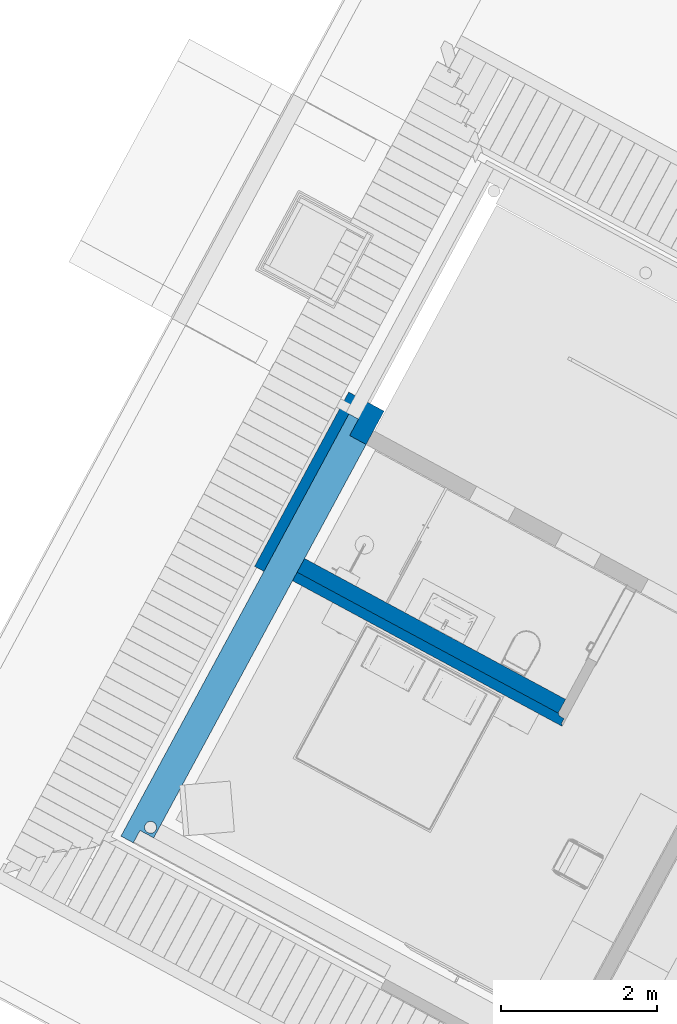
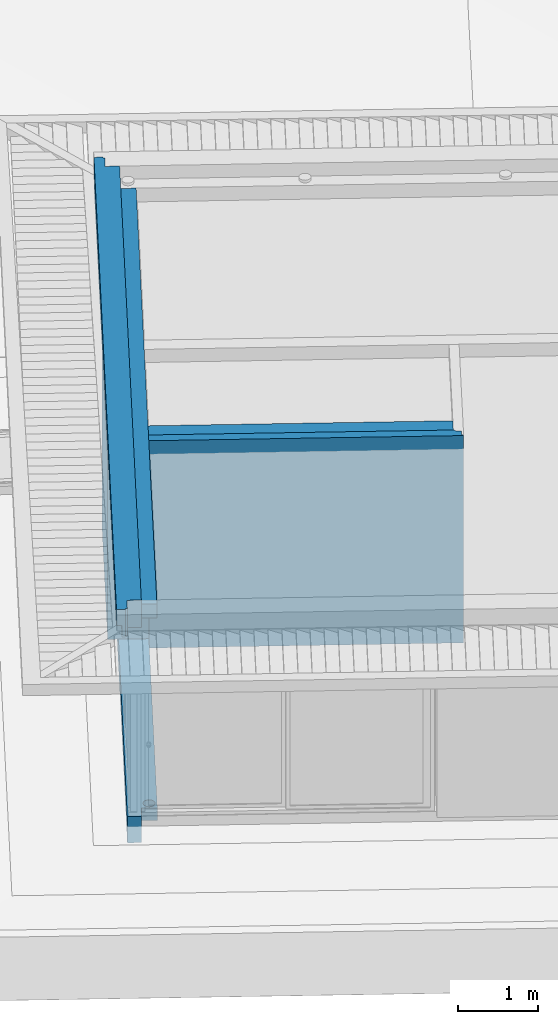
# One storey, part 7 of 48: 4 walls, 2 openings.
"""IFC2X3 building model written with IfcOpenShell, lengths in metres."""

import ifcopenshell
import ifcopenshell.guid

model = None  # the IFC model being written
_history = None  # IfcOwnerHistory: only IFC2X3 demands one
_inside = {}  # id of a spatial element -> (the spatial element, [elements in it])
_under = {}  # id of a project, library or spatial element -> (it, [spatial elements below it])
_declared = {}  # id of a project -> (the project, [libraries it declares])
_typed = {}  # id of a type object -> (the type object, [elements of that type])
_made_of = {}  # id of a material, layer set ... -> (it, [elements and type objects made of it])


def new_model(schema):
    """Start an empty IFC model of exactly this schema.

    Asked for "IFC4X3", IfcOpenShell would pick the latest addendum, in which some entities
    have other attributes; the version numbers below select the first issue.
    IFC2X3 requires an IfcOwnerHistory on every rooted entity: one is made here for all.
    """
    global model, _history
    if schema == "IFC4X3":
        model = ifcopenshell.file(schema_version=(4, 3, 0, 0))
    else:
        model = ifcopenshell.file(schema=schema)
    _inside.clear()
    _under.clear()
    _declared.clear()
    _typed.clear()
    _made_of.clear()
    _history = None
    if model.schema == "IFC2X3":
        org = make("IfcOrganization", Name="unknown")
        user = make(
            "IfcPersonAndOrganization",
            ThePerson=make("IfcPerson", FamilyName="unknown"),
            TheOrganization=org,
        )
        app = make(
            "IfcApplication",
            ApplicationDeveloper=org,
            Version="unknown",
            ApplicationFullName="unknown",
            ApplicationIdentifier="unknown",
        )
        _history = make(
            "IfcOwnerHistory",
            OwningUser=user,
            OwningApplication=app,
            ChangeAction="ADDED",
            CreationDate=0,
        )
    return model


def make(cls, **values):
    """One entity of the class cls with the attributes given. An attribute that is None is left unset."""
    return model.create_entity(
        cls, **{name: value for name, value in values.items() if value is not None}
    )


def entity(cls, *values):
    """Any entity or typed value of the class cls, its attributes in the order of the schema. None: left unset."""
    e = model.create_entity(cls)
    for i, value in enumerate(values):
        if value is not None:
            e[i] = value
    return e


def rooted(cls, **values):
    """An entity with a GlobalId (a new one), such as an element, a storey or a relation."""
    return make(cls, GlobalId=ifcopenshell.guid.new(), OwnerHistory=_history, **values)


def si_unit(unit_type, name, prefix=None):
    """IfcSIUnit, for example si_unit("LENGTHUNIT", "METRE", prefix="MILLI")."""
    return make("IfcSIUnit", UnitType=unit_type, Prefix=prefix, Name=name)


def converted_unit(unit_type, name, factor, base, dimensions=None, offset=None):
    """IfcConversionBasedUnit, such as the inch: factor (a typed value) times the base unit."""
    return make(
        "IfcConversionBasedUnit"
        if offset is None
        else "IfcConversionBasedUnitWithOffset",
        ConversionOffset=offset,
        Dimensions=None
        if dimensions is None
        else entity("IfcDimensionalExponents", *dimensions),
        UnitType=unit_type,
        Name=name,
        ConversionFactor=make(
            "IfcMeasureWithUnit", ValueComponent=factor, UnitComponent=base
        ),
    )


def derived_unit(unit_type, elements):
    """IfcDerivedUnit: a product of units, each with its exponent."""
    return make(
        "IfcDerivedUnit",
        Elements=[
            make("IfcDerivedUnitElement", Unit=unit, Exponent=power)
            for unit, power in elements
        ],
        UnitType=unit_type,
    )


def money_unit(currency):
    """IfcMonetaryUnit."""
    return make("IfcMonetaryUnit", Currency=currency)


def assignment(units):
    """IfcUnitAssignment: the units of a project."""
    return None if units is None else make("IfcUnitAssignment", Units=units)


def point(xyz):
    """IfcCartesianPoint."""
    return None if xyz is None else make("IfcCartesianPoint", Coordinates=xyz)


def direction(xyz):
    """IfcDirection."""
    return None if xyz is None else make("IfcDirection", DirectionRatios=xyz)


def frame(location, z_axis=None, x_axis=None):
    """IfcAxis2Placement3D, a coordinate frame: its origin and axes. An axis left out is left unset."""
    return make(
        "IfcAxis2Placement3D",
        Location=point(location),
        Axis=direction(z_axis),
        RefDirection=direction(x_axis),
    )


def origin_with_axes():
    """The frame at (0, 0, 0) with the z axis (0, 0, 1) and the x axis (1, 0, 0) written out."""
    return frame((0.0, 0.0, 0.0), z_axis=(0.0, 0.0, 1.0), x_axis=(1.0, 0.0, 0.0))


def place(relative_to, where):
    """IfcLocalPlacement: puts the frame where relative to a parent placement (None: the world)."""
    return make(
        "IfcLocalPlacement", PlacementRelTo=relative_to, RelativePlacement=where
    )


def context(
    kind, dimensions, precision=None, world=None, true_north=None, identifier=None
):
    """IfcGeometricRepresentationContext, for example the 3D "Model" context."""
    return make(
        "IfcGeometricRepresentationContext",
        ContextIdentifier=identifier,
        ContextType=kind,
        CoordinateSpaceDimension=dimensions,
        Precision=precision,
        WorldCoordinateSystem=world,
        TrueNorth=true_north,
    )


def subcontext(parent, identifier, kind, view, scale=None):
    """IfcGeometricRepresentationSubContext, for example "Body" below "Model"."""
    return make(
        "IfcGeometricRepresentationSubContext",
        ContextIdentifier=identifier,
        ContextType=kind,
        ParentContext=parent,
        TargetScale=scale,
        TargetView=view,
    )


def project(units=None, contexts=None):
    """IfcProject with its units and contexts."""
    return rooted(
        "IfcProject",
        Name="project",
        RepresentationContexts=contexts,
        UnitsInContext=assignment(units),
    )


def spatial(cls, under=None, at=None, **own):
    """A site, building, storey or space (cls), placed at a placement, below another one or the project."""
    s = rooted(cls, ObjectPlacement=at, **own)
    if under is not None:
        _under.setdefault(under.id(), (under, []))[1].append(s)
    return s


def faces_of(points, faces, orient=None, outer=None):
    """IfcFace entities. A face is a list of loops; a loop is a list of indices into points, from 0.

    orient and outer hold one flag for each loop. By default every Orientation is true, the
    first loop of a face is its IfcFaceOuterBound and the others are IfcFaceBound.
    """
    made = []
    for i, loops in enumerate(faces):
        bounds = []
        for j, loop in enumerate(loops):
            is_outer = j == 0 if outer is None else outer[i][j]
            bounds.append(
                make(
                    "IfcFaceOuterBound" if is_outer else "IfcFaceBound",
                    Bound=make("IfcPolyLoop", Polygon=[points[k] for k in loop]),
                    Orientation=True if orient is None else orient[i][j],
                )
            )
        made.append(make("IfcFace", Bounds=bounds))
    return made


def faceted_brep(points, faces, orient=None, outer=None, voids=None):
    """IfcFacetedBrep: a solid bounded by flat faces; with voids (closed shells), ...WithVoids."""
    shared = [point(p) for p in points]
    hull = make("IfcClosedShell", CfsFaces=faces_of(shared, faces, orient, outer))
    if voids is None:
        return make("IfcFacetedBrep", Outer=hull)
    return make(
        "IfcFacetedBrepWithVoids",
        Outer=hull,
        Voids=[
            make(cls, CfsFaces=faces_of(shared, fs, o, b)) for cls, fs, o, b in voids
        ],
    )


def shape(context_of_items, identifier, shape_type, items):
    """IfcShapeRepresentation: the items that make up one representation, for example the "Body"."""
    return make(
        "IfcShapeRepresentation",
        ContextOfItems=context_of_items,
        RepresentationIdentifier=identifier,
        RepresentationType=shape_type,
        Items=items,
    )


def material(Name=None, Category=None):
    """IfcMaterial."""
    return make("IfcMaterial", Name=Name, Category=Category)


def material_list(materials):
    """IfcMaterialList."""
    return make("IfcMaterialList", Materials=materials)


def made_of(thing, what):
    """Note that an element or type object is made of a material, layer set ...; save() writes the relation."""
    if what is not None:
        _made_of.setdefault(what.id(), (what, []))[1].append(thing)
    return thing


def type_object(cls, material=None, **own):
    """A type object (cls), such as IfcWallType, which elements share."""
    return made_of(rooted(cls, **own), material)


def element(
    cls,
    number,
    at=None,
    inside=None,
    cuts=None,
    type_object=None,
    material=None,
    context=None,
    identifier="Body",
    shape_type=None,
    held_by="IfcProductDefinitionShape",
    body=None,
    shapes=None,
    **own,
):
    """One element of the class cls, such as IfcWall. Its Tag is "e" and its number.

    at: its placement. inside: the storey or other place that contains it. cuts: it is an
    opening in that element (IfcRelVoidsElement). A single representation is given by context,
    identifier, shape_type and body (its items); several are given by shapes. held_by: the class
    of the entity that holds the representations. save() writes the other relations.
    """
    e = rooted(cls, Tag="e%d" % number, ObjectPlacement=at, **own)
    if body is not None:
        shapes = [shape(context, identifier, shape_type, body)]
    if shapes is not None:
        e.Representation = make(held_by, Representations=shapes)
    if inside is not None:
        _inside.setdefault(inside.id(), (inside, []))[1].append(e)
    if cuts is not None:
        rooted(
            "IfcRelVoidsElement", RelatingBuildingElement=cuts, RelatedOpeningElement=e
        )
    if type_object is not None:
        _typed.setdefault(type_object.id(), (type_object, []))[1].append(e)
    return made_of(e, material)


def aggregate(whole, parts):
    """IfcRelAggregates: a whole, such as a stair, and the parts it consists of."""
    return rooted("IfcRelAggregates", RelatingObject=whole, RelatedObjects=parts)


def save(model, path):
    """Write the relations noted so far, then the file.

    IfcRelAggregates (storeys below a building ...), IfcRelContainedInSpatialStructure (elements
    in a storey), IfcRelDefinesByType, IfcRelAssociatesMaterial and IfcRelDeclares: one each for
    every whole, place, type object, material and project.
    """
    for whole, parts in _under.values():
        aggregate(whole, parts)
    for where, things in _inside.values():
        rooted(
            "IfcRelContainedInSpatialStructure",
            RelatedElements=things,
            RelatingStructure=where,
        )
    for kind, things in _typed.values():
        rooted("IfcRelDefinesByType", RelatedObjects=things, RelatingType=kind)
    for what, things in _made_of.values():
        rooted("IfcRelAssociatesMaterial", RelatedObjects=things, RelatingMaterial=what)
    for by, libraries in _declared.values():
        rooted("IfcRelDeclares", RelatingContext=by, RelatedDefinitions=libraries)
    model.write(path)


model = new_model("IFC2X3")

# Units and contexts
model_context = context("Model", 3, precision=1e-05, world=origin_with_axes(), true_north=direction((0.0, 1.0)))
body_context = subcontext(model_context, "Body", "Model", "MODEL_VIEW")
ifc_project = project(units=[si_unit("LENGTHUNIT", "METRE"), si_unit("AREAUNIT", "SQUARE_METRE"), si_unit("VOLUMEUNIT", "CUBIC_METRE"), converted_unit("PLANEANGLEUNIT", "DEGREE", entity("IfcPlaneAngleMeasure", 0.0174532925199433), si_unit("PLANEANGLEUNIT", "RADIAN"), dimensions=[0, 0, 0, 0, 0, 0, 0]), money_unit("EUR"), converted_unit("TIMEUNIT", "Year", entity("IfcTimeMeasure", 31556926.0), si_unit("TIMEUNIT", "SECOND"), dimensions=[0, 0, 1, 0, 0, 0, 0]), si_unit("MASSUNIT", "GRAM", prefix="KILO"), si_unit("THERMODYNAMICTEMPERATUREUNIT", "DEGREE_CELSIUS"), si_unit("LUMINOUSINTENSITYUNIT", "LUMEN"), si_unit("ENERGYUNIT", "JOULE", prefix="MEGA"), derived_unit("THERMALCONDUCTANCEUNIT", [(si_unit("POWERUNIT", "WATT"), 1), (si_unit("LENGTHUNIT", "METRE"), -1), (si_unit("THERMODYNAMICTEMPERATUREUNIT", "KELVIN"), -1)]), derived_unit("SPECIFICHEATCAPACITYUNIT", [(si_unit("ENERGYUNIT", "JOULE"), 1), (si_unit("MASSUNIT", "GRAM", prefix="KILO"), -1), (si_unit("THERMODYNAMICTEMPERATUREUNIT", "KELVIN"), -1)]), derived_unit("MASSDENSITYUNIT", [(si_unit("MASSUNIT", "GRAM", prefix="KILO"), 1), (si_unit("VOLUMEUNIT", "CUBIC_METRE"), -1)])], contexts=[model_context])

# Site, building, storey
site_placement = place(None, frame((-3.949935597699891, 1.740105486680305, 0.0), z_axis=(0.0, 0.0, 1.0), x_axis=(0.8799804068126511, -0.475009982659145, 0.0)))
site = spatial("IfcSite", under=ifc_project, at=site_placement, Name="Gelände", CompositionType="ELEMENT")
building_placement = place(site_placement, origin_with_axes())
building = spatial("IfcBuilding", under=site, at=building_placement, Name="Gebäude", CompositionType="ELEMENT")
storey_placement = place(building_placement, frame((0.0, 0.0, 4.55), z_axis=(0.0, 0.0, 1.0), x_axis=(1.0, 0.0, 0.0)))
storey = spatial("IfcBuildingStorey", under=building, at=storey_placement, Name="Staffelgeschoss", CompositionType="ELEMENT", Elevation=4.55)

# Wall
ifc_material_1 = material(Name="_SIWH - Gipskarton")
ifc_material_2 = material(Name="_SIWH - Dämmung, weich Mineralwolle")
ifc_material_list_1 = material_list([ifc_material_1, ifc_material_1, ifc_material_2, ifc_material_1, ifc_material_1])
wall_type_1 = type_object("IfcWallType", Name="_SIWH - WI | GK 2-lagig | 12,5cm 125", PredefinedType="NOTDEFINED")
wall_1_placement = place(storey_placement, frame((5.597480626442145, 5.168060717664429, -0.1899999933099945), z_axis=(0.0, 0.0, 1.0), x_axis=(1.0, 0.0, 0.0)))
element("IfcWall", 1, at=wall_1_placement, inside=storey, type_object=wall_type_1, material=ifc_material_list_1, Name="L-Wand040", context=body_context, shape_type="Brep", body=[
    faceted_brep([(3.812914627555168, 0.125, 3.153999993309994), (0.0, 0.125, 3.153999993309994), (0.0, 0.1124999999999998, 3.153999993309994), (3.812914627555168, 0.1125000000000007, 3.153999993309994), (3.812914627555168, 0.125, 0.0), (0.0, 0.125, 0.0), (0.0, 0.1124999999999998, 0.0), (3.812914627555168, 0.1124999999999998, 0.0)], [[[0, 1, 2, 3]], [[4, 5, 1, 0]], [[2, 1, 5, 6]], [[3, 2, 6, 7]], [[3, 7, 4, 0]], [[7, 6, 5, 4]]]),
    faceted_brep([(3.825414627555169, 0.1125000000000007, 3.153999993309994), (0.0, 0.1124999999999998, 3.153999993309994), (0.0, 0.1000000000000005, 3.153999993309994), (3.825414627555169, 0.1000000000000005, 3.153999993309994), (3.825414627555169, 0.1124999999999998, 0.0), (0.0, 0.1124999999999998, 0.0), (0.0, 0.09999999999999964, 0.0), (3.825414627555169, 0.1000000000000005, 0.0)], [[[0, 1, 2, 3]], [[4, 5, 1, 0]], [[2, 1, 5, 6]], [[3, 2, 6, 7]], [[3, 7, 4, 0]], [[7, 6, 5, 4]]]),
    faceted_brep([(3.900414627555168, 0.1000000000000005, 3.153999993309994), (0.0, 0.1000000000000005, 3.153999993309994), (0.0, 0.02500000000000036, 3.153999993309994), (3.900414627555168, 0.02500000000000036, 3.153999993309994), (3.900414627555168, 0.1000000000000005, 0.0), (0.0, 0.09999999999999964, 0.0), (0.0, 0.02500000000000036, 0.0), (3.900414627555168, 0.02500000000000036, 0.0)], [[[0, 1, 2, 3]], [[4, 5, 1, 0]], [[2, 1, 5, 6]], [[3, 2, 6, 7]], [[3, 7, 4, 0]], [[7, 6, 5, 4]]]),
    faceted_brep([(3.912914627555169, 0.02500000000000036, 3.153999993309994), (0.0, 0.02500000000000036, 3.153999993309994), (0.0, 0.01250000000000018, 3.153999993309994), (3.912914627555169, 0.01250000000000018, 3.153999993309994), (3.912914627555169, 0.02500000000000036, 0.0), (0.0, 0.02500000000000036, 0.0), (0.0, 0.01250000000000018, 0.0), (3.912914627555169, 0.01250000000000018, 0.0)], [[[0, 1, 2, 3]], [[4, 5, 1, 0]], [[2, 1, 5, 6]], [[3, 2, 6, 7]], [[3, 7, 4, 0]], [[7, 6, 5, 4]]]),
    faceted_brep([(3.925414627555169, 0.01250000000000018, 3.153999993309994), (0.0, 0.01250000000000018, 3.153999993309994), (0.0, 0.0, 3.153999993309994), (3.925414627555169, 0.0, 3.153999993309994), (3.925414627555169, 0.01250000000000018, 0.0), (0.0, 0.01250000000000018, 0.0), (0.0, 0.0, 0.0), (3.925414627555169, 0.0, 0.0)], [[[0, 1, 2, 3]], [[4, 5, 1, 0]], [[2, 1, 5, 6]], [[3, 2, 6, 7]], [[3, 7, 4, 0]], [[7, 6, 5, 4]]]),
])

# Wall, openings
ifc_material_3 = material(Name="_SIWH - Beton, Stahlbeton")
ifc_material_4 = material(Name="_SIWH - Luftschicht vertikal")
ifc_material_5 = material(Name="_SIWH - MW Vormauerziegel")
ifc_material_list_2 = material_list([ifc_material_3, ifc_material_2, ifc_material_4, ifc_material_5])
wall_type_2 = type_object("IfcWallType", Name="_SIWH - WA | Stb. 20+WD 18+LS 2+Verblender 11,5 | 51,5cm 515", PredefinedType="NOTDEFINED")
wall_2_placement = place(storey_placement, frame((5.397480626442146, 10.85780061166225, 0.0), z_axis=(0.0, 0.0, 1.0), x_axis=(0.0, -1.0, 0.0)))
wall_2 = element("IfcWall", 2, at=wall_2_placement, inside=storey, type_object=wall_type_2, material=ifc_material_list_2, Name="A-Wand045", context=body_context, shape_type="Brep", body=[
    faceted_brep([(3.21969709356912, 0.2000000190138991, 0.0), (3.21969709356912, 0.2000000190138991, 2.699999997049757), (0.2000000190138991, 0.2000000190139, 2.699999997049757), (0.1999999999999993, 0.1999999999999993, 2.964), (9.2328131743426, 0.2000000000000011, 2.964), (9.2328131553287, 0.2000000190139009, 2.749999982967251), (5.757806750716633, 0.2000000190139, 2.749999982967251), (5.757806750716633, 0.2000000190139, 0.0), (3.21969709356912, 0.0, 0.0), (3.21969709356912, 0.0, 2.699999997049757), (0.1999999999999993, 0.0, 2.699999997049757), (0.1999999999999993, 0.0, 2.964), (9.2328131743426, 0.0, 2.964), (9.2328131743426, 0.1249999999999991, 2.749999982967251), (9.2328131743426, 0.0, 2.749999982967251), (5.757806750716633, 0.1249999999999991, 2.749999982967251), (5.757806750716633, 0.1249999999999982, 0.0), (5.757806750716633, 7.510192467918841e-09, 0.0), (5.757806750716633, 0.0, 2.749999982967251)], [[[0, 1, 2, 3, 4, 5, 6, 7]], [[1, 0, 8, 9]], [[10, 2, 1, 9]], [[2, 10, 11, 3]], [[11, 12, 4, 3]], [[13, 5, 4, 12, 14]], [[6, 5, 13, 15]], [[7, 6, 15, 16]], [[8, 0, 7, 16, 17]], [[9, 8, 17, 18, 14, 12, 11, 10]], [[13, 14, 18, 15]], [[17, 16, 15, 18]]]),
    faceted_brep([(3.21969709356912, 0.0, 0.0), (3.21969709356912, 0.0, 2.699999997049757), (0.0, 0.0, 2.699999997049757), (0.0, 0.0, 3.163999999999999), (9.4328131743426, 0.0, 3.163999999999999), (9.432812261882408, -9.124468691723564e-07, 2.749999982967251), (5.757806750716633, 0.0, 2.749999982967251), (5.757806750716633, 7.510192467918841e-09, 0.0), (3.21969709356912, -0.1800000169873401, 0.0), (3.21969709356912, -0.1800000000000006, 2.699999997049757), (0.0, -0.1799999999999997, 2.699999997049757), (0.0, -0.1799999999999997, 3.163999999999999), (9.4328131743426, -0.1799999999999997, 3.163999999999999), (9.4328131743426, -0.1799999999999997, 2.749999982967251), (5.757806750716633, -0.1799999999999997, 2.749999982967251), (5.757806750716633, -0.1800000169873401, 0.0)], [[[0, 1, 2, 3, 4, 5, 6, 7]], [[0, 8, 9, 1]], [[10, 2, 1, 9]], [[2, 10, 11, 3]], [[11, 12, 4, 3]], [[13, 5, 4, 12]], [[6, 5, 13, 14]], [[7, 6, 14, 15]], [[8, 0, 7, 15]], [[9, 8, 15, 14, 13, 12, 11, 10]]]),
    faceted_brep([(3.21969709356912, -0.1800000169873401, 0.0), (3.21969709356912, -0.1800000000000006, 2.699999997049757), (-0.1799999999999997, -0.1799999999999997, 2.699999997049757), (-0.1799999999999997, -0.1799999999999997, 3.163999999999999), (9.6128131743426, -0.1799999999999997, 3.163999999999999), (9.612810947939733, -0.1800022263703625, 2.749999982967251), (5.757806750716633, -0.1799999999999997, 2.749999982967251), (5.757806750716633, -0.1800000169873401, 0.0), (3.21969709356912, -0.200000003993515, 0.0), (3.21969709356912, -0.2000000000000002, 2.699999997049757), (-0.1799999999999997, -0.1999999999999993, 2.699999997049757), (-0.1799999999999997, -0.1999999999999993, 3.163999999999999), (9.6128131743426, -0.1999999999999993, 3.163999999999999), (9.6128131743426, -0.1999999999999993, 2.749999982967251), (5.757806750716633, -0.1999999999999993, 2.749999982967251), (5.757806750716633, -0.200000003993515, 0.0)], [[[0, 1, 2, 3, 4, 5, 6, 7]], [[1, 0, 8, 9]], [[10, 2, 1, 9]], [[2, 10, 11, 3]], [[11, 12, 4, 3]], [[13, 5, 4, 12]], [[6, 5, 13, 14]], [[7, 6, 14, 15]], [[8, 0, 7, 15]], [[9, 8, 15, 14, 13, 12, 11, 10]]]),
    faceted_brep([(3.21969709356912, -0.200000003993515, 0.0), (3.21969709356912, -0.2000000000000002, 2.699999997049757), (-0.1999999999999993, -0.1999999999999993, 2.699999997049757), (-0.1999999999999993, -0.1999999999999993, 3.163999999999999), (9.632813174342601, -0.1999999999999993, 3.163999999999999), (9.632810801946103, -0.2000023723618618, 2.749999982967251), (5.757806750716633, -0.1999999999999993, 2.749999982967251), (5.757806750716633, -0.200000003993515, 0.0), (3.21969709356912, -0.3150000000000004, 0.0), (3.21969709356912, -0.3150000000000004, 2.699999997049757), (-0.1999999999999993, -0.3149999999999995, 2.699999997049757), (-0.1999999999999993, -0.3149999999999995, 2.75), (-0.1999999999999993, -0.2449999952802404, 2.75), (-0.1999999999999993, -0.2449999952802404, 2.92), (-0.1999999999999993, -0.3150000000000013, 2.919999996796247), (-0.1999999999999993, -0.3149999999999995, 3.163999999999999), (9.632813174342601, -0.3149999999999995, 3.163999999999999), (9.632813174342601, -0.2449999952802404, 2.749999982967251), (9.632813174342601, -0.3149999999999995, 2.919999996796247), (9.632813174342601, -0.2449999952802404, 2.92), (5.757806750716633, -0.2449999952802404, 2.749999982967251), (5.757806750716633, -0.3149999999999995, 2.749999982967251), (5.757806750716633, -0.3150000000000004, 0.0), (-0.162839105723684, -0.3149999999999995, 2.75), (9.621824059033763, -0.3149999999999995, 2.92), (-0.1628391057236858, -0.3150000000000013, 2.92)], [[[0, 1, 2, 3, 4, 5, 6, 7]], [[1, 0, 8, 9]], [[10, 2, 1, 9]], [[2, 10, 11, 12, 13, 14, 15, 3]], [[15, 16, 4, 3]], [[17, 5, 4, 16, 18, 19]], [[6, 5, 17, 20]], [[7, 6, 20, 21, 22]], [[8, 0, 7, 22]], [[9, 8, 22, 21, 23, 11, 10]], [[21, 20, 12, 11, 23]], [[20, 17, 19, 13, 12]], [[14, 13, 19, 18, 24, 25]], [[14, 25, 24, 18, 16, 15]]]),
])
opening_1_placement = place(wall_2_placement, frame((1.644848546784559, 0.0, 0.0), z_axis=(0.0, 0.0, 1.0), x_axis=(1.0, 0.0, 0.0)))
element("IfcOpeningElement", 3, at=opening_1_placement, cuts=wall_2, Name="Fenster-003", context=body_context, shape_type="Brep", body=[
    faceted_brep([(1.574848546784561, 0.0, 2.699999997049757), (-1.644848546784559, 0.0, 2.699999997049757), (-1.95984854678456, -0.3150000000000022, 2.699999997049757), (-1.95984854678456, -0.3160000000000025, 2.699999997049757), (1.574848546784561, -0.3160000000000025, 2.699999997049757), (1.574848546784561, 0.2010000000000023, 2.699999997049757), (-1.443848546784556, 0.2010000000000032, 2.699999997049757), (-1.443848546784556, 0.2010000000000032, 0.0), (-1.644848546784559, 0.0, 0.0), (-1.95984854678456, -0.3150000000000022, 0.0), (-1.95984854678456, -0.3160000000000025, 0.0), (1.574848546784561, -0.3160000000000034, 0.0), (1.574848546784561, 0.0, 0.0), (1.574848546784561, 0.2010000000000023, 0.0)], [[[0, 1, 2, 3, 4]], [[1, 0, 5, 6]], [[2, 1, 6, 7, 8, 9]], [[9, 10, 3, 2]], [[3, 10, 11, 4]], [[12, 0, 4, 11]], [[0, 12, 13, 5]], [[5, 13, 7, 6]], [[12, 8, 7, 13]], [[8, 12, 11, 10, 9]]]),
])
opening_2_placement = place(wall_2_placement, frame((7.497806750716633, 0.0, 0.0), z_axis=(0.0, 0.0, 1.0), x_axis=(1.0, 0.0, 0.0)))
element("IfcOpeningElement", 4, at=opening_2_placement, cuts=wall_2, Name="Fenster-003", context=body_context, shape_type="Brep", body=[
    faceted_brep([(1.810006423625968, 0.125, 2.749999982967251), (-1.74, 0.125, 2.749999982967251), (-1.74, -0.3160000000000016, 2.749999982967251), (2.25, -0.3160000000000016, 2.749999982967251), (2.25, -0.3149935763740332, 2.749999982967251), (1.734006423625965, 0.2010000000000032, 2.749999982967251), (-1.74, 0.2010000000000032, 2.749999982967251), (-1.74, 0.1249999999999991, 0.0), (-1.74, -0.3160000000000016, 0.0), (2.25, -0.3160000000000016, 0.0), (2.25, -0.3149935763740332, 0.0), (1.810006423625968, 0.125, 0.0), (1.734006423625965, 0.2010000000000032, 0.0), (-1.74, 0.2010000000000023, 0.0)], [[[0, 1, 2, 3, 4]], [[1, 0, 5, 6]], [[1, 7, 8, 2]], [[2, 8, 9, 3]], [[4, 3, 9, 10]], [[4, 10, 11, 12, 5, 0]], [[12, 13, 6, 5]], [[7, 1, 6, 13]], [[7, 11, 10, 9, 8]], [[11, 7, 13, 12]]]),
])

# Walls
ifc_material_6 = material(Name="_SIWH - Installationswand, raumhoch")
ifc_material_list_3 = material_list([ifc_material_6, ifc_material_1, ifc_material_1])
wall_type_3 = type_object("IfcWallType", Name="_SIWH - WI | Vorsatz-GK 2-lagig | 20cm 200", PredefinedType="NOTDEFINED")
wall_3_placement = place(storey_placement, frame((9.522895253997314, 5.293036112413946, -0.1899999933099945), z_axis=(0.0, 0.0, 1.0), x_axis=(-0.9999999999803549, 6.268191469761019e-06, 0.0)))
element("IfcWall", 5, at=wall_3_placement, inside=storey, type_object=wall_type_3, material=ifc_material_list_3, Name="L-Wand023", context=body_context, shape_type="Brep", body=[
    faceted_brep([(0.1250000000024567, 0.0, 0.1899999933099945), (0.1250010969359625, -0.1749999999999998, 0.1899999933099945), (0.1250010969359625, -0.1749999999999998, 2.939999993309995), (0.1250000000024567, 0.0, 2.939999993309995), (3.925415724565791, -0.1749999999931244, 0.1899999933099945), (3.925414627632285, 0.0, 0.1899999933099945), (3.925414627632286, -0.1749999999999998, 3.153999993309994), (0.1250010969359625, -0.1749999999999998, 3.153999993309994), (0.1250010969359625, -0.1749999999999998, 2.954999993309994), (3.910414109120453, -0.1750000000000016, 2.954999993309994), (3.910414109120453, -0.1750000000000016, 2.939999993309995), (3.91041284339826, 0.0, 2.939999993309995), (3.91041284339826, 0.0, 2.954999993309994), (0.1250000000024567, 0.0, 2.954999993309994), (0.1250000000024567, 0.0, 3.153999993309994), (3.925414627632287, 0.0, 3.153999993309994)], [[[0, 1, 2, 3]], [[4, 1, 0, 5]], [[1, 4, 6, 7, 8, 9, 10, 2]], [[3, 2, 10, 11]], [[5, 0, 3, 11, 12, 13, 14, 15]], [[4, 5, 15, 6]], [[14, 7, 6, 15]], [[7, 14, 13, 8]], [[9, 8, 13, 12]], [[10, 9, 12, 11]]]),
    faceted_brep([(3.925414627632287, -0.1875, 3.153999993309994), (0.1250011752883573, -0.1874999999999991, 3.153999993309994), (0.1250011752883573, -0.1875, 0.0), (3.925414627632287, -0.1875000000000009, 0.0), (0.1250010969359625, -0.1749999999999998, 3.153999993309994), (3.925414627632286, -0.1749999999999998, 3.153999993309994), (0.1250010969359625, -0.1749999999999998, 0.0), (3.925414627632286, -0.1749999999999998, 0.0)], [[[0, 1, 2, 3]], [[4, 1, 0, 5]], [[1, 4, 6, 2]], [[3, 2, 6, 7]], [[5, 0, 3, 7]], [[4, 5, 7, 6]]]),
    faceted_brep([(3.925414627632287, -0.2000000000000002, 3.153999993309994), (0.1250012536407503, -0.1999999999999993, 3.153999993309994), (0.1250012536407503, -0.2000000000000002, 0.0), (3.925414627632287, -0.2000000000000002, 0.0), (0.1250011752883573, -0.1874999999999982, 3.153999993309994), (3.925414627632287, -0.1875, 3.153999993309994), (0.1250011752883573, -0.1875, 0.0), (3.925414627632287, -0.1875000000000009, 0.0)], [[[0, 1, 2, 3]], [[4, 1, 0, 5]], [[1, 4, 6, 2]], [[3, 2, 6, 7]], [[5, 0, 3, 7]], [[4, 5, 7, 6]]]),
])
ifc_material_list_4 = material_list([ifc_material_3, ifc_material_2])
wall_type_4 = type_object("IfcWallType", Name="_SIWH - WA | Stb. 20+WD 18 | 38cm 380", PredefinedType="NOTDEFINED")
wall_4_placement = place(storey_placement, frame((5.397480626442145, 7.393034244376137, -0.3999999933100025), z_axis=(0.0, 0.0, 1.0), x_axis=(0.0, -1.0, 0.0)))
element("IfcWall", 6, at=wall_4_placement, inside=storey, type_object=wall_type_4, material=ifc_material_list_4, Name="A-Wand047", context=body_context, shape_type="Brep", body=[
    faceted_brep([(5.968046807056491, 0.0, 0.210000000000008), (0.2399999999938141, -1.373878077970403e-08, 0.210000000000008), (0.2399999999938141, 0.2000008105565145, 0.210000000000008), (5.968046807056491, 0.2000000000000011, 0.210000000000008), (5.912715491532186, 0.16148521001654, 0.2099999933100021), (5.891529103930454, 0.1722802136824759, 0.2099999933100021), (5.868043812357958, 0.1759999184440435, 0.2099999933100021), (5.844558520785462, 0.1722802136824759, 0.2099999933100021), (5.82337213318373, 0.16148521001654, 0.2099999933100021), (5.806558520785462, 0.144671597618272, 0.2099999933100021), (5.795763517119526, 0.1234852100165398, 0.2099999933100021), (5.792043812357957, 0.09999991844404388, 0.2099999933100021), (5.795763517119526, 0.07651462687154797, 0.2099999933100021), (5.806558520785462, 0.05532823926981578, 0.2099999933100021), (5.82337213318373, 0.03851462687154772, 0.2099999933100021), (5.844558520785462, 0.02771962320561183, 0.2099999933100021), (5.868043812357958, 0.02399991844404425, 0.2099999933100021), (5.891529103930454, 0.02771962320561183, 0.2099999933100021), (5.912715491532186, 0.03851462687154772, 0.2099999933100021), (5.929529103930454, 0.05532823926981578, 0.2099999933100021), (5.940324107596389, 0.07651462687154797, 0.2099999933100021), (5.944043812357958, 0.09999991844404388, 0.2099999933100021), (5.940324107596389, 0.1234852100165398, 0.2099999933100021), (5.929529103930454, 0.144671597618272, 0.2099999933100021), (5.968046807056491, 0.0, 0.3999999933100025), (0.2399999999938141, 0.0, 0.4000003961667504), (0.2399999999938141, 0.2000008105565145, 0.4000003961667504), (5.968046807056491, 0.2000000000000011, 0.3999999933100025), (5.912718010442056, 0.1614853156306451, 0.4000003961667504), (5.891531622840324, 0.1722803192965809, 0.4000003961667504), (5.868046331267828, 0.1760000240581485, 0.4000003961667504), (5.844561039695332, 0.1722803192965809, 0.4000003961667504), (5.8233746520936, 0.1614853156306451, 0.4000003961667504), (5.806561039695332, 0.144671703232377, 0.4000003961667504), (5.795766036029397, 0.1234853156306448, 0.4000003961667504), (5.792046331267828, 0.1000000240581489, 0.4000003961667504), (5.795766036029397, 0.07651473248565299, 0.4000003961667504), (5.806561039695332, 0.0553283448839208, 0.4000003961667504), (5.8233746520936, 0.03851473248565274, 0.4000003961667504), (5.844561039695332, 0.02771972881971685, 0.4000003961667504), (5.868046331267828, 0.02400002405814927, 0.4000003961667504), (5.891531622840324, 0.02771972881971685, 0.4000003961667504), (5.912718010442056, 0.03851473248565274, 0.4000003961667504), (5.929531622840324, 0.0553283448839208, 0.4000003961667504), (5.940326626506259, 0.07651473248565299, 0.4000003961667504), (5.944046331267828, 0.1000000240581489, 0.4000003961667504), (5.940326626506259, 0.1234853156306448, 0.4000003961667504), (5.929531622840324, 0.144671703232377, 0.4000003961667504)], [[[0, 1, 2, 3], [4, 5, 6, 7, 8, 9, 10, 11, 12, 13, 14, 15, 16, 17, 18, 19, 20, 21, 22, 23]], [[24, 25, 1, 0]], [[1, 25, 26, 2]], [[3, 2, 26, 27]], [[27, 24, 0, 3]], [[5, 4, 28, 29]], [[30, 6, 5, 29]], [[31, 7, 6, 30]], [[8, 7, 31, 32]], [[9, 8, 32, 33]], [[10, 9, 33, 34]], [[11, 10, 34, 35]], [[12, 11, 35, 36]], [[13, 12, 36, 37]], [[14, 13, 37, 38]], [[15, 14, 38, 39]], [[16, 15, 39, 40]], [[17, 16, 40, 41]], [[18, 17, 41, 42]], [[19, 18, 42, 43]], [[20, 19, 43, 44]], [[21, 20, 44, 45]], [[22, 21, 45, 46]], [[23, 22, 46, 47]], [[4, 23, 47, 28]], [[27, 26, 25, 24], [32, 31, 30, 29, 28, 47, 46, 45, 44, 43, 42, 41, 40, 39, 38, 37, 36, 35, 34, 33]]]),
    faceted_brep([(0.2399999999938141, 0.0, 0.0), (0.2399999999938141, 0.0, 0.4000003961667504), (6.148046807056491, 0.0, 0.3999999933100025), (6.148046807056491, 0.0, 0.0), (0.2399999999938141, -0.03999918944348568, 0.4000003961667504), (0.2399999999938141, -0.03999918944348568, 0.0), (0.0, -0.03999918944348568, 0.4000003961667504), (0.0, -0.1799999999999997, 0.3999999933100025), (6.148046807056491, -0.1799999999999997, 0.3999999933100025), (6.148046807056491, -0.1799999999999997, 0.0), (0.0, -0.1799999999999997, 0.0), (0.0, -0.03999918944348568, 0.0)], [[[0, 1, 2, 3]], [[4, 1, 0, 5]], [[4, 6, 7, 8, 2, 1]], [[9, 3, 2, 8]], [[5, 0, 3, 9, 10, 11]], [[11, 6, 4, 5]], [[6, 11, 10, 7]], [[9, 8, 7, 10]]]),
])

save(model, "model.ifc")
